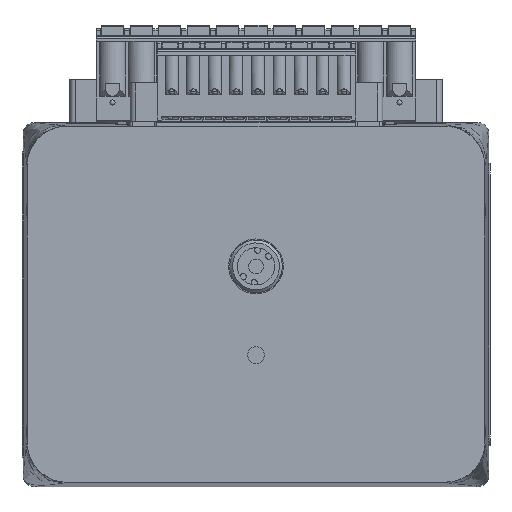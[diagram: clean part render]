
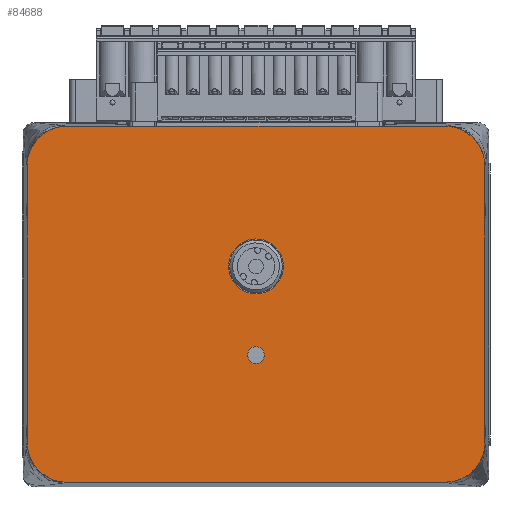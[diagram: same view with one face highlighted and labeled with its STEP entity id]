
A CAD part, top view. The second image highlights one B-rep face of the part: STEP entity #84688.
In plain terms, the highlighted planar face has unit normal (0, 0, 1).
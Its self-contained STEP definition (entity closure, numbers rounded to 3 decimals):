
#442=B_SPLINE_CURVE_WITH_KNOTS('',3,(#147159,#147160,#147161,#147162,#147163,
#147164,#147165,#147166,#147167,#147168,#147169,#147170,#147171),
 .UNSPECIFIED.,.F.,.F.,(4,3,3,3,4),(0.,0.277,0.558,
0.828,1.103),.UNSPECIFIED.);
#443=B_SPLINE_CURVE_WITH_KNOTS('',3,(#147175,#147176,#147177,#147178,#147179,
#147180,#147181,#147182,#147183,#147184,#147185,#147186,#147187),
 .UNSPECIFIED.,.F.,.F.,(4,3,3,3,4),(0.,0.277,0.558,
0.828,1.103),.UNSPECIFIED.);
#444=B_SPLINE_CURVE_WITH_KNOTS('',3,(#147191,#147192,#147193,#147194,#147195,
#147196,#147197,#147198,#147199,#147200,#147201,#147202,#147203),
 .UNSPECIFIED.,.F.,.F.,(4,3,3,3,4),(0.,0.277,0.558,
0.828,1.103),.UNSPECIFIED.);
#445=B_SPLINE_CURVE_WITH_KNOTS('',3,(#147206,#147207,#147208,#147209,#147210,
#147211,#147212,#147213,#147214,#147215,#147216,#147217,#147218),
 .UNSPECIFIED.,.F.,.F.,(4,3,3,3,4),(0.,0.277,0.558,
0.828,1.103),.UNSPECIFIED.);
#1589=FACE_BOUND('',#13377,.T.);
#1590=FACE_BOUND('',#13378,.T.);
#4455=PLANE('',#92326);
#8719=FACE_OUTER_BOUND('',#13376,.T.);
#13376=EDGE_LOOP('',(#73961,#73962,#73963,#73964,#73965,#73966,#73967,#73968));
#13377=EDGE_LOOP('',(#73969,#73970));
#13378=EDGE_LOOP('',(#73971));
#21302=LINE('',#147157,#29302);
#21303=LINE('',#147173,#29303);
#21304=LINE('',#147189,#29304);
#21305=LINE('',#147205,#29305);
#29302=VECTOR('',#115081,10.);
#29303=VECTOR('',#115082,10.);
#29304=VECTOR('',#115083,10.);
#29305=VECTOR('',#115084,10.);
#32236=CIRCLE('',#92300,1.5);
#32237=CIRCLE('',#92301,1.5);
#32249=CIRCLE('',#92325,4.85);
#39654=VERTEX_POINT('',#147073);
#39655=VERTEX_POINT('',#147074);
#39687=VERTEX_POINT('',#147151);
#39688=VERTEX_POINT('',#147155);
#39689=VERTEX_POINT('',#147156);
#39690=VERTEX_POINT('',#147158);
#39691=VERTEX_POINT('',#147172);
#39692=VERTEX_POINT('',#147174);
#39693=VERTEX_POINT('',#147188);
#39694=VERTEX_POINT('',#147190);
#39695=VERTEX_POINT('',#147204);
#51136=EDGE_CURVE('',#39654,#39655,#32236,.T.);
#51137=EDGE_CURVE('',#39655,#39654,#32237,.T.);
#51169=EDGE_CURVE('',#39687,#39687,#32249,.T.);
#51171=EDGE_CURVE('',#39688,#39689,#21302,.T.);
#51172=EDGE_CURVE('',#39689,#39690,#442,.T.);
#51173=EDGE_CURVE('',#39690,#39691,#21303,.T.);
#51174=EDGE_CURVE('',#39691,#39692,#443,.T.);
#51175=EDGE_CURVE('',#39692,#39693,#21304,.T.);
#51176=EDGE_CURVE('',#39693,#39694,#444,.T.);
#51177=EDGE_CURVE('',#39694,#39695,#21305,.T.);
#51178=EDGE_CURVE('',#39695,#39688,#445,.T.);
#73961=ORIENTED_EDGE('',*,*,#51171,.T.);
#73962=ORIENTED_EDGE('',*,*,#51172,.T.);
#73963=ORIENTED_EDGE('',*,*,#51173,.T.);
#73964=ORIENTED_EDGE('',*,*,#51174,.T.);
#73965=ORIENTED_EDGE('',*,*,#51175,.T.);
#73966=ORIENTED_EDGE('',*,*,#51176,.T.);
#73967=ORIENTED_EDGE('',*,*,#51177,.T.);
#73968=ORIENTED_EDGE('',*,*,#51178,.T.);
#73969=ORIENTED_EDGE('',*,*,#51136,.T.);
#73970=ORIENTED_EDGE('',*,*,#51137,.T.);
#73971=ORIENTED_EDGE('',*,*,#51169,.T.);
#84688=ADVANCED_FACE('',(#8719,#1589,#1590),#4455,.F.);
#92300=AXIS2_PLACEMENT_3D('',#147075,#115006,#115007);
#92301=AXIS2_PLACEMENT_3D('',#147076,#115008,#115009);
#92325=AXIS2_PLACEMENT_3D('',#147152,#115076,#115077);
#92326=AXIS2_PLACEMENT_3D('',#147154,#115079,#115080);
#115006=DIRECTION('center_axis',(0.,0.,
-1.));
#115007=DIRECTION('ref_axis',(1.,0.,0.));
#115008=DIRECTION('center_axis',(0.,0.,
-1.));
#115009=DIRECTION('ref_axis',(1.,0.,0.));
#115076=DIRECTION('center_axis',(0.,0.,
-1.));
#115077=DIRECTION('ref_axis',(1.,0.,0.));
#115079=DIRECTION('center_axis',(0.,0.,
-1.));
#115080=DIRECTION('ref_axis',(1.,0.,0.));
#115081=DIRECTION('',(0.,-1.,0.));
#115082=DIRECTION('',(1.,0.,0.));
#115083=DIRECTION('',(0.,1.,0.));
#115084=DIRECTION('',(-1.,0.,0.));
#147073=CARTESIAN_POINT('',(-15.183,-22.17,22.956));
#147074=CARTESIAN_POINT('',(-12.183,-22.17,22.956));
#147075=CARTESIAN_POINT('Origin',(-13.683,-22.17,22.956));
#147076=CARTESIAN_POINT('Origin',(-13.683,-22.17,22.956));
#147151=CARTESIAN_POINT('',(-18.533,-6.47,22.956));
#147152=CARTESIAN_POINT('Origin',(-13.683,-6.47,22.956));
#147154=CARTESIAN_POINT('Origin',(-13.683,-13.17,22.956));
#147155=CARTESIAN_POINT('',(-54.183,11.331,22.956));
#147156=CARTESIAN_POINT('',(-54.183,-37.672,22.956));
#147157=CARTESIAN_POINT('',(-54.183,18.33,22.956));
#147158=CARTESIAN_POINT('',(-47.184,-44.67,22.956));
#147159=CARTESIAN_POINT('Ctrl Pts',(-54.183,-37.672,
22.956));
#147160=CARTESIAN_POINT('Ctrl Pts',(-54.183,-38.596,
22.956));
#147161=CARTESIAN_POINT('Ctrl Pts',(-54.,-39.511,
22.956));
#147162=CARTESIAN_POINT('Ctrl Pts',(-53.644,-40.364,
22.956));
#147163=CARTESIAN_POINT('Ctrl Pts',(-53.285,-41.227,
22.956));
#147164=CARTESIAN_POINT('Ctrl Pts',(-52.755,-42.01,
22.956));
#147165=CARTESIAN_POINT('Ctrl Pts',(-52.088,-42.665,
22.956));
#147166=CARTESIAN_POINT('Ctrl Pts',(-51.446,-43.295,
22.956));
#147167=CARTESIAN_POINT('Ctrl Pts',(-50.689,-43.796,
22.956));
#147168=CARTESIAN_POINT('Ctrl Pts',(-49.859,-44.139,
22.956));
#147169=CARTESIAN_POINT('Ctrl Pts',(-49.011,-44.49,
22.956));
#147170=CARTESIAN_POINT('Ctrl Pts',(-48.102,-44.67,
22.956));
#147171=CARTESIAN_POINT('Ctrl Pts',(-47.184,-44.67,
22.956));
#147172=CARTESIAN_POINT('',(19.818,-44.67,22.956));
#147173=CARTESIAN_POINT('',(-54.183,-44.67,22.956));
#147174=CARTESIAN_POINT('',(26.817,-37.672,22.956));
#147175=CARTESIAN_POINT('Ctrl Pts',(19.818,-44.67,22.956));
#147176=CARTESIAN_POINT('Ctrl Pts',(20.743,-44.67,22.956));
#147177=CARTESIAN_POINT('Ctrl Pts',(21.658,-44.487,
22.956));
#147178=CARTESIAN_POINT('Ctrl Pts',(22.511,-44.132,22.956));
#147179=CARTESIAN_POINT('Ctrl Pts',(23.374,-43.772,
22.956));
#147180=CARTESIAN_POINT('Ctrl Pts',(24.157,-43.243,
22.956));
#147181=CARTESIAN_POINT('Ctrl Pts',(24.812,-42.575,
22.956));
#147182=CARTESIAN_POINT('Ctrl Pts',(25.442,-41.934,
22.956));
#147183=CARTESIAN_POINT('Ctrl Pts',(25.942,-41.177,
22.956));
#147184=CARTESIAN_POINT('Ctrl Pts',(26.286,-40.346,
22.956));
#147185=CARTESIAN_POINT('Ctrl Pts',(26.637,-39.498,22.956));
#147186=CARTESIAN_POINT('Ctrl Pts',(26.817,-38.589,22.956));
#147187=CARTESIAN_POINT('Ctrl Pts',(26.817,-37.672,
22.956));
#147188=CARTESIAN_POINT('',(26.817,11.331,22.956));
#147189=CARTESIAN_POINT('',(26.817,-44.67,22.956));
#147190=CARTESIAN_POINT('',(19.818,18.33,22.956));
#147191=CARTESIAN_POINT('Ctrl Pts',(26.817,11.331,22.956));
#147192=CARTESIAN_POINT('Ctrl Pts',(26.817,12.255,22.956));
#147193=CARTESIAN_POINT('Ctrl Pts',(26.634,13.17,22.956));
#147194=CARTESIAN_POINT('Ctrl Pts',(26.279,14.023,22.956));
#147195=CARTESIAN_POINT('Ctrl Pts',(25.919,14.887,22.956));
#147196=CARTESIAN_POINT('Ctrl Pts',(25.39,15.669,22.956));
#147197=CARTESIAN_POINT('Ctrl Pts',(24.722,16.325,22.956));
#147198=CARTESIAN_POINT('Ctrl Pts',(24.081,16.955,22.956));
#147199=CARTESIAN_POINT('Ctrl Pts',(23.324,17.455,22.956));
#147200=CARTESIAN_POINT('Ctrl Pts',(22.493,17.799,22.956));
#147201=CARTESIAN_POINT('Ctrl Pts',(21.645,18.149,22.956));
#147202=CARTESIAN_POINT('Ctrl Pts',(20.736,18.33,22.956));
#147203=CARTESIAN_POINT('Ctrl Pts',(19.818,18.33,22.956));
#147204=CARTESIAN_POINT('',(-47.184,18.33,22.956));
#147205=CARTESIAN_POINT('',(26.817,18.33,22.956));
#147206=CARTESIAN_POINT('Ctrl Pts',(-47.184,18.33,
22.956));
#147207=CARTESIAN_POINT('Ctrl Pts',(-48.108,18.33,
22.956));
#147208=CARTESIAN_POINT('Ctrl Pts',(-49.023,18.147,22.956));
#147209=CARTESIAN_POINT('Ctrl Pts',(-49.877,17.791,
22.956));
#147210=CARTESIAN_POINT('Ctrl Pts',(-50.74,17.431,
22.956));
#147211=CARTESIAN_POINT('Ctrl Pts',(-51.522,16.902,
22.956));
#147212=CARTESIAN_POINT('Ctrl Pts',(-52.178,16.235,
22.956));
#147213=CARTESIAN_POINT('Ctrl Pts',(-52.808,15.593,
22.956));
#147214=CARTESIAN_POINT('Ctrl Pts',(-53.308,14.836,
22.956));
#147215=CARTESIAN_POINT('Ctrl Pts',(-53.652,14.005,
22.956));
#147216=CARTESIAN_POINT('Ctrl Pts',(-54.002,13.157,22.956));
#147217=CARTESIAN_POINT('Ctrl Pts',(-54.183,12.249,
22.956));
#147218=CARTESIAN_POINT('Ctrl Pts',(-54.183,11.331,
22.956));
